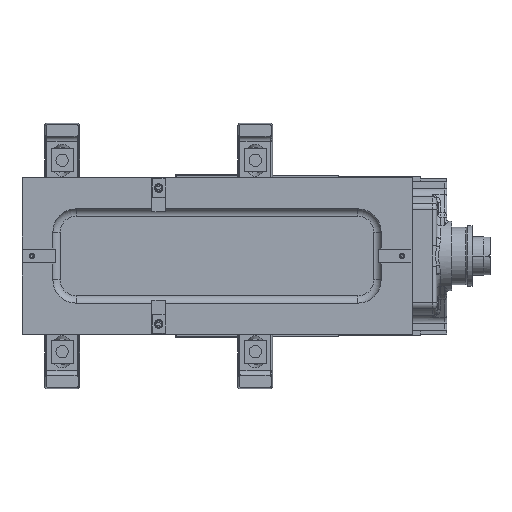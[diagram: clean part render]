
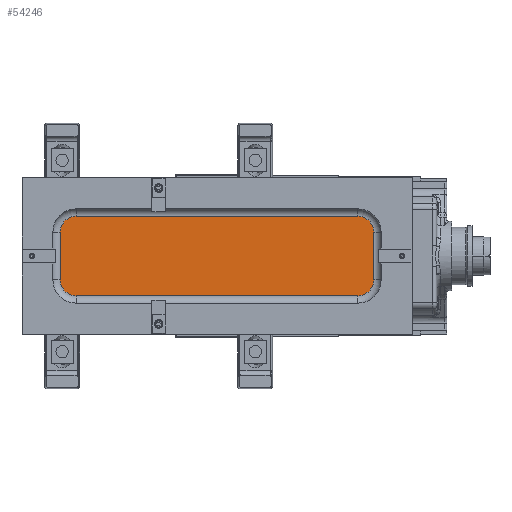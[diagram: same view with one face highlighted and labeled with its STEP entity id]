
A CAD part, front view. The second image highlights one B-rep face of the part: STEP entity #54246.
In plain terms, the highlighted planar face has unit normal (0, -1, 0).
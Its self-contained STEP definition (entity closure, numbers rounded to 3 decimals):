
#551 = VERTEX_POINT ( 'NONE', #22712 ) ;
#997 = EDGE_CURVE ( 'NONE', #62766, #32882, #37998, .T. ) ;
#4536 = CARTESIAN_POINT ( 'NONE',  ( 258., -86., 51.461 ) ) ;
#5884 = ORIENTED_EDGE ( 'NONE', *, *, #23121, .T. ) ;
#6336 = ORIENTED_EDGE ( 'NONE', *, *, #19301, .T. ) ;
#8674 = AXIS2_PLACEMENT_3D ( 'NONE', #61245, #61940, #44621 ) ;
#11177 = DIRECTION ( 'NONE',  ( 0., 0., 1. ) ) ;
#13145 = CARTESIAN_POINT ( 'NONE',  ( -127.461, -86., -31. ) ) ;
#14158 = DIRECTION ( 'NONE',  ( 0., 0., -1. ) ) ;
#16981 = CARTESIAN_POINT ( 'NONE',  ( 258., -86., -51.461 ) ) ;
#17355 = VERTEX_POINT ( 'NONE', #51630 ) ;
#17899 = CARTESIAN_POINT ( 'NONE',  ( -107., -86., 51.461 ) ) ;
#18042 = AXIS2_PLACEMENT_3D ( 'NONE', #58153, #68608, #14158 ) ;
#18112 = VERTEX_POINT ( 'NONE', #24696 ) ;
#19301 = EDGE_CURVE ( 'NONE', #43868, #44400, #42251, .T. ) ;
#19331 = ORIENTED_EDGE ( 'NONE', *, *, #25992, .T. ) ;
#19734 = DIRECTION ( 'NONE',  ( 0., -1., 0. ) ) ;
#20092 = CARTESIAN_POINT ( 'NONE',  ( 258., -86., -31. ) ) ;
#20264 = DIRECTION ( 'NONE',  ( 0., -1., 0. ) ) ;
#20808 = CARTESIAN_POINT ( 'NONE',  ( -107., -86., 51.461 ) ) ;
#22712 = CARTESIAN_POINT ( 'NONE',  ( 278.461, -86., 31. ) ) ;
#23121 = EDGE_CURVE ( 'NONE', #44400, #17355, #38978, .T. ) ;
#23196 = EDGE_CURVE ( 'NONE', #56805, #62766, #70203, .T. ) ;
#23481 = ORIENTED_EDGE ( 'NONE', *, *, #997, .T. ) ;
#23822 = CARTESIAN_POINT ( 'NONE',  ( -127.461, -86., -31. ) ) ;
#24696 = CARTESIAN_POINT ( 'NONE',  ( 278.461, -86., -31. ) ) ;
#25992 = EDGE_CURVE ( 'NONE', #32882, #43868, #62585, .T. ) ;
#26485 = VECTOR ( 'NONE', #55539, 1000. ) ;
#28245 = CIRCLE ( 'NONE', #37461, 20.461 ) ;
#29347 = CIRCLE ( 'NONE', #51193, 20.461 ) ;
#30930 = DIRECTION ( 'NONE',  ( 0., -1., 0. ) ) ;
#32882 = VERTEX_POINT ( 'NONE', #58104 ) ;
#35177 = DIRECTION ( 'NONE',  ( 0., 0., -1. ) ) ;
#36504 = DIRECTION ( 'NONE',  ( 0., 0., -1. ) ) ;
#37000 = VECTOR ( 'NONE', #35177, 1000. ) ;
#37461 = AXIS2_PLACEMENT_3D ( 'NONE', #70395, #20264, #36504 ) ;
#37721 = DIRECTION ( 'NONE',  ( 0., 0., -1. ) ) ;
#37998 = CIRCLE ( 'NONE', #49460, 20.461 ) ;
#38751 = EDGE_LOOP ( 'NONE', ( #59150, #56908, #52145, #43645, #23481, #19331, #6336, #5884 ) ) ;
#38978 = LINE ( 'NONE', #16981, #26485 ) ;
#39900 = EDGE_CURVE ( 'NONE', #18112, #551, #67094, .T. ) ;
#39935 = PLANE ( 'NONE',  #8674 ) ;
#40527 = EDGE_CURVE ( 'NONE', #17355, #18112, #29347, .T. ) ;
#42251 = CIRCLE ( 'NONE', #18042, 20.461 ) ;
#42813 = DIRECTION ( 'NONE',  ( -1., 0., 0. ) ) ;
#43645 = ORIENTED_EDGE ( 'NONE', *, *, #23196, .T. ) ;
#43868 = VERTEX_POINT ( 'NONE', #23822 ) ;
#44400 = VERTEX_POINT ( 'NONE', #52913 ) ;
#44621 = DIRECTION ( 'NONE',  ( 0., 0., -1. ) ) ;
#49460 = AXIS2_PLACEMENT_3D ( 'NONE', #53596, #30930, #69494 ) ;
#50473 = CARTESIAN_POINT ( 'NONE',  ( 278.461, -86., 31. ) ) ;
#51193 = AXIS2_PLACEMENT_3D ( 'NONE', #20092, #19734, #37721 ) ;
#51630 = CARTESIAN_POINT ( 'NONE',  ( 258., -86., -51.461 ) ) ;
#52145 = ORIENTED_EDGE ( 'NONE', *, *, #66368, .T. ) ;
#52913 = CARTESIAN_POINT ( 'NONE',  ( -107., -86., -51.461 ) ) ;
#53596 = CARTESIAN_POINT ( 'NONE',  ( -107., -86., 31. ) ) ;
#54246 = ADVANCED_FACE ( 'NONE', ( #55068 ), #39935, .T. ) ;
#55068 = FACE_OUTER_BOUND ( 'NONE', #38751, .T. ) ;
#55241 = VECTOR ( 'NONE', #42813, 1000. ) ;
#55539 = DIRECTION ( 'NONE',  ( 1., 0., 0. ) ) ;
#56805 = VERTEX_POINT ( 'NONE', #4536 ) ;
#56908 = ORIENTED_EDGE ( 'NONE', *, *, #39900, .T. ) ;
#58104 = CARTESIAN_POINT ( 'NONE',  ( -127.461, -86., 31. ) ) ;
#58153 = CARTESIAN_POINT ( 'NONE',  ( -107., -86., -31. ) ) ;
#59150 = ORIENTED_EDGE ( 'NONE', *, *, #40527, .T. ) ;
#61245 = CARTESIAN_POINT ( 'NONE',  ( 0., -86., 0. ) ) ;
#61388 = VECTOR ( 'NONE', #11177, 1000. ) ;
#61940 = DIRECTION ( 'NONE',  ( 0., -1., 0. ) ) ;
#62585 = LINE ( 'NONE', #13145, #37000 ) ;
#62766 = VERTEX_POINT ( 'NONE', #17899 ) ;
#66368 = EDGE_CURVE ( 'NONE', #551, #56805, #28245, .T. ) ;
#67094 = LINE ( 'NONE', #50473, #61388 ) ;
#68608 = DIRECTION ( 'NONE',  ( 0., -1., 0. ) ) ;
#69494 = DIRECTION ( 'NONE',  ( 0., 0., -1. ) ) ;
#70203 = LINE ( 'NONE', #20808, #55241 ) ;
#70395 = CARTESIAN_POINT ( 'NONE',  ( 258., -86., 31. ) ) ;
